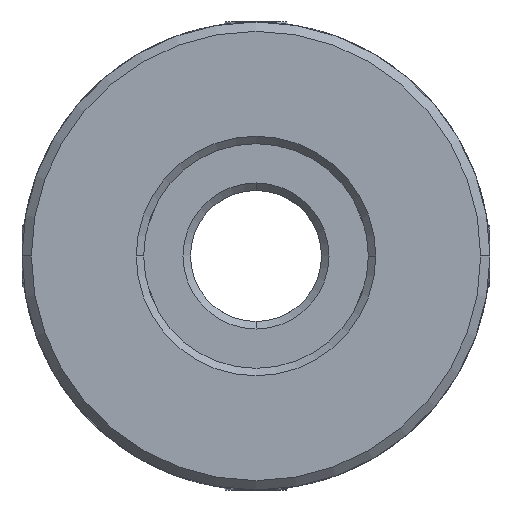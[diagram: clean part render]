
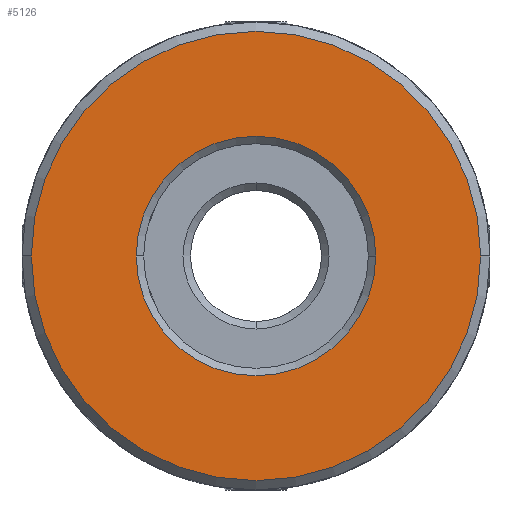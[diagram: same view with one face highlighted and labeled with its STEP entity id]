
A CAD part, front view. The second image highlights one B-rep face of the part: STEP entity #5126.
In plain terms, the highlighted planar face has unit normal (0, -1, 0).
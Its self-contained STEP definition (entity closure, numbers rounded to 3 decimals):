
#110 = PLANE ( 'NONE',  #2750 ) ;
#576 = ORIENTED_EDGE ( 'NONE', *, *, #6223, .T. ) ;
#723 = FACE_BOUND ( 'NONE', #2460, .T. ) ;
#867 = CARTESIAN_POINT ( 'NONE',  ( 0., -28., 0. ) ) ;
#870 = CARTESIAN_POINT ( 'NONE',  ( -6.4, -28., 0. ) ) ;
#1184 = FACE_OUTER_BOUND ( 'NONE', #9335, .T. ) ;
#1314 = VERTEX_POINT ( 'NONE', #6081 ) ;
#1823 = DIRECTION ( 'NONE',  ( 0., 1., 0. ) ) ;
#1990 = CIRCLE ( 'NONE', #9876, 6.4 ) ;
#2126 = CIRCLE ( 'NONE', #9221, 12. ) ;
#2460 = EDGE_LOOP ( 'NONE', ( #3019, #4526 ) ) ;
#2583 = CARTESIAN_POINT ( 'NONE',  ( 0., -28., 0. ) ) ;
#2629 = DIRECTION ( 'NONE',  ( -1., 0., 0. ) ) ;
#2750 = AXIS2_PLACEMENT_3D ( 'NONE', #9337, #5350, #5441 ) ;
#3019 = ORIENTED_EDGE ( 'NONE', *, *, #9452, .T. ) ;
#3285 = CARTESIAN_POINT ( 'NONE',  ( 6.4, -28., 0. ) ) ;
#3316 = AXIS2_PLACEMENT_3D ( 'NONE', #8045, #1823, #8009 ) ;
#3726 = DIRECTION ( 'NONE',  ( -1., 0., 0. ) ) ;
#3860 = EDGE_CURVE ( 'NONE', #9219, #8790, #4445, .T. ) ;
#4158 = DIRECTION ( 'NONE',  ( 0., 1., 0. ) ) ;
#4400 = CARTESIAN_POINT ( 'NONE',  ( -12., -28., 0. ) ) ;
#4445 = CIRCLE ( 'NONE', #3316, 6.4 ) ;
#4526 = ORIENTED_EDGE ( 'NONE', *, *, #3860, .T. ) ;
#4740 = AXIS2_PLACEMENT_3D ( 'NONE', #2583, #7949, #3726 ) ;
#5126 = ADVANCED_FACE ( 'NONE', ( #1184, #723 ), #110, .F. ) ;
#5350 = DIRECTION ( 'NONE',  ( 0., 1., 0. ) ) ;
#5441 = DIRECTION ( 'NONE',  ( -1., 0., 0. ) ) ;
#5607 = CARTESIAN_POINT ( 'NONE',  ( 0., -28., 0. ) ) ;
#6081 = CARTESIAN_POINT ( 'NONE',  ( 12., -28., 0. ) ) ;
#6223 = EDGE_CURVE ( 'NONE', #1314, #6260, #6933, .T. ) ;
#6260 = VERTEX_POINT ( 'NONE', #4400 ) ;
#6394 = ORIENTED_EDGE ( 'NONE', *, *, #8524, .T. ) ;
#6933 = CIRCLE ( 'NONE', #4740, 12. ) ;
#7706 = DIRECTION ( 'NONE',  ( 0., -1., 0. ) ) ;
#7949 = DIRECTION ( 'NONE',  ( 0., -1., 0. ) ) ;
#8009 = DIRECTION ( 'NONE',  ( -1., 0., 0. ) ) ;
#8045 = CARTESIAN_POINT ( 'NONE',  ( 0., -28., 0. ) ) ;
#8498 = DIRECTION ( 'NONE',  ( -1., 0., 0. ) ) ;
#8524 = EDGE_CURVE ( 'NONE', #6260, #1314, #2126, .T. ) ;
#8790 = VERTEX_POINT ( 'NONE', #3285 ) ;
#9219 = VERTEX_POINT ( 'NONE', #870 ) ;
#9221 = AXIS2_PLACEMENT_3D ( 'NONE', #867, #7706, #8498 ) ;
#9335 = EDGE_LOOP ( 'NONE', ( #6394, #576 ) ) ;
#9337 = CARTESIAN_POINT ( 'NONE',  ( -19.597, -28., -50. ) ) ;
#9452 = EDGE_CURVE ( 'NONE', #8790, #9219, #1990, .T. ) ;
#9876 = AXIS2_PLACEMENT_3D ( 'NONE', #5607, #4158, #2629 ) ;
